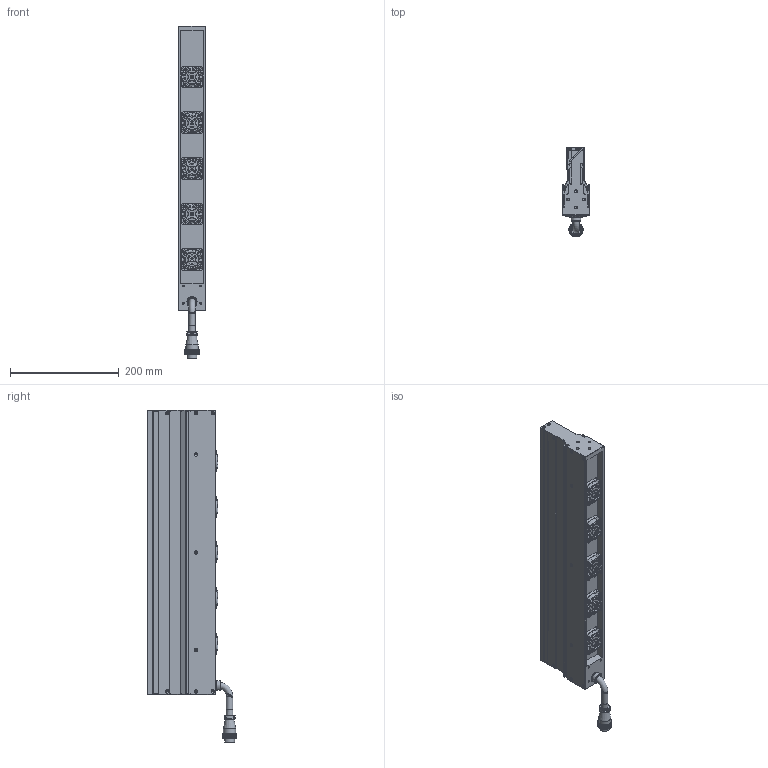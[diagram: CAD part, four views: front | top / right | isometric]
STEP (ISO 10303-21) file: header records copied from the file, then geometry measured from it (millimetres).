
FILE_DESCRIPTION (( 'STEP AP203' ), '1' );
FILE_NAME ('OPT-LSSC524-W-V3.1尨砩芞.STEP', '2025-02-05T08:21:28', ( 'USER' ), ( '' ), 'SwSTEP 2.0', 'SolidWorks 2016', '' );
FILE_SCHEMA (( 'CONFIG_CONTROL_DESIGN' ));
Length unit declared in the file: millimetre
Products named in the file (2): OPT-LSSC524-W-V3.1尨砩芞
Bounding box: 50 x 164.5 x 611.1 mm (x, y, z)
Volume: 2024329.9 mm3; surface area: 378238.6 mm2
Topology: 25 solids, 34 shells, 2950 faces, 7541 edges, 4783 vertices
Faces by surface type: bspline 1078, cylinder 876, plane 734, torus 197, cone 65
Full cylindrical faces by diameter (mm): 1 x2, 1.6 x20, 2 x5, 2.5 x26, 3 x4, 3.2 x24, 3.4 x24, 3.5 x4, 5 x8, 6.2 x20, 8 x1, 11.6 x1, 11.7 x3, 12 x1, 15 x1, 15.9 x1, 17.5 x1, 18 x1, 18.5 x1, 22.8 x1, 24 x1, 24.8 x5, 38 x5
Entity records: 110113 total; most frequent: CARTESIAN_POINT 51352, ORIENTED_EDGE 14210, DIRECTION 7945, EDGE_CURVE 7105, VERTEX_POINT 4681, B_SPLINE_CURVE_WITH_KNOTS 4220, EDGE_LOOP 3442, FACE_OUTER_BOUND 3205
